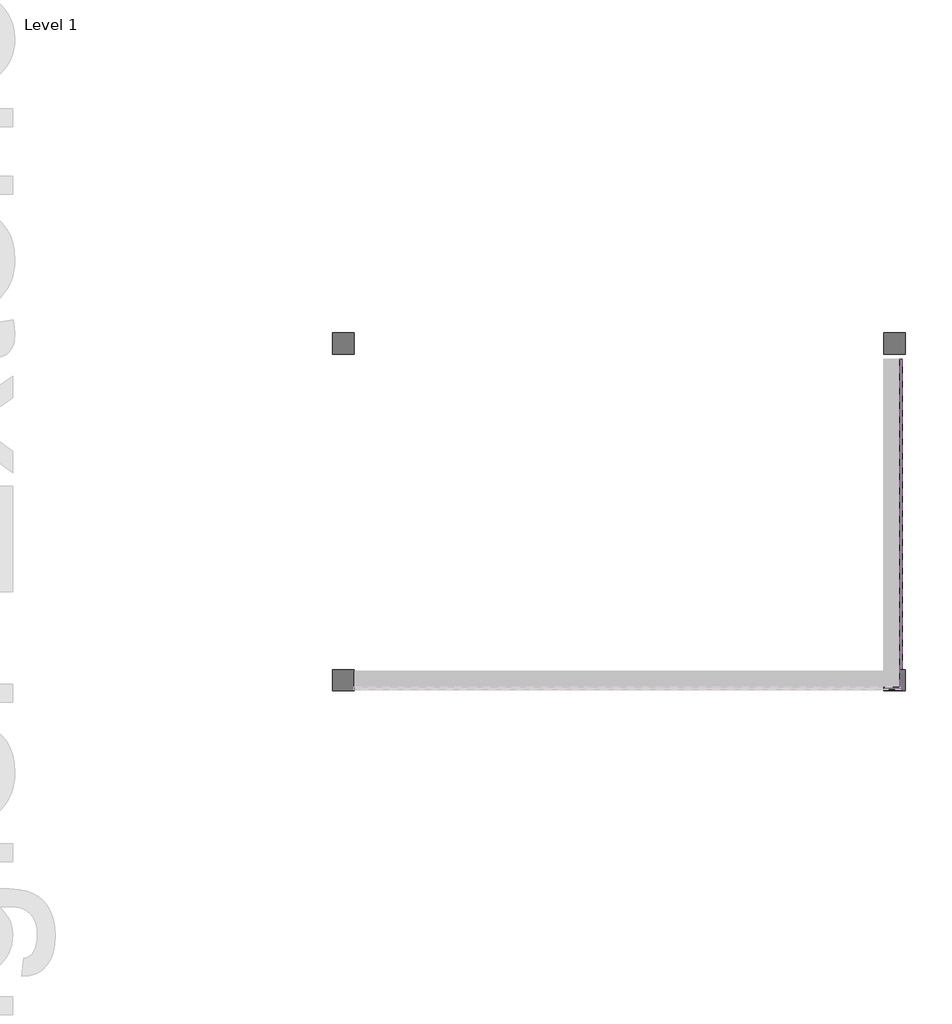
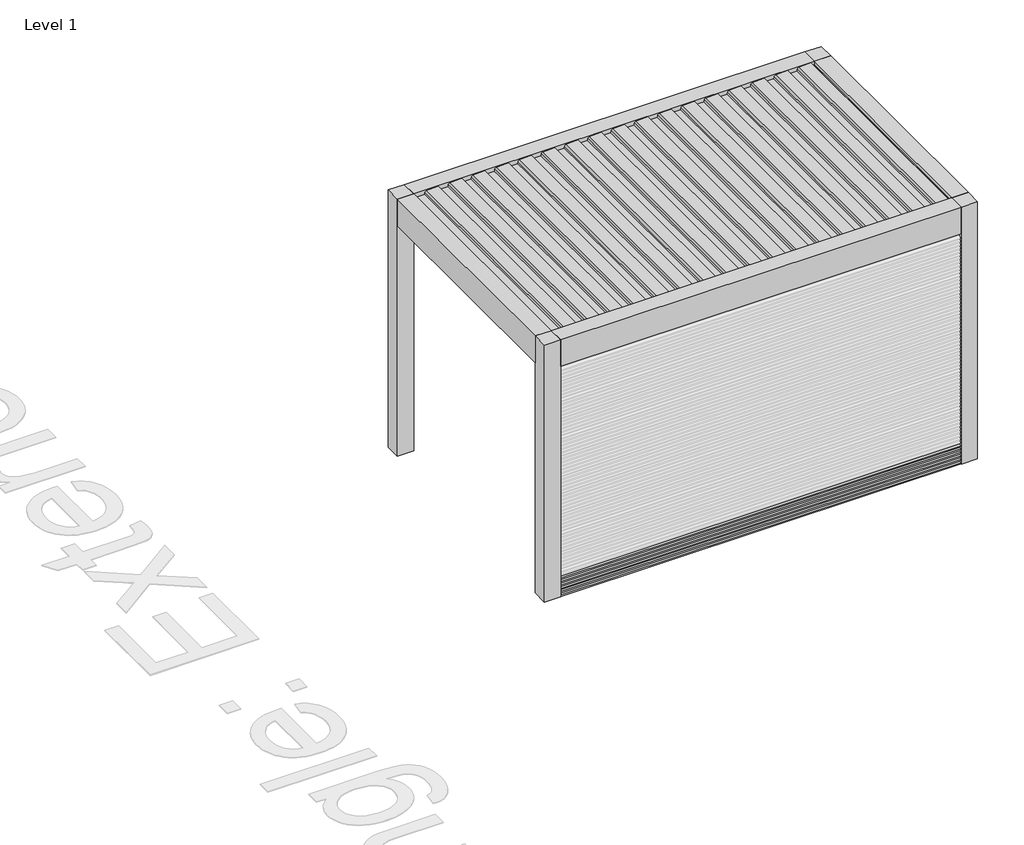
# One storey, part 59 of 69: 43 proxies.
"""IFC4 building model written with IfcOpenShell, lengths in millimetres."""

from ifc_helpers import new_model, si_unit, origin, place, context, project, spatial, faceted_brep, transform, mapped, element, save
from components import generic_models_9b0df196

model = new_model("IFC4")

# Units and contexts
model_context = context("Model", 3, world=origin())
ifc_project = project(units=[si_unit("LENGTHUNIT", "METRE", prefix="MILLI")], contexts=[model_context])

# Site, building, storey
site = spatial("IfcSite", under=ifc_project)
building = spatial("IfcBuilding", under=site)
storey = spatial("IfcBuildingStorey", under=building, Name="Level 1", Elevation=0.0)

# Proxies
placement = place(None, origin())
element("IfcBuildingElementProxy", 1, Name="Wall Sweeps", at=placement, inside=storey, context=model_context, shape_type="Brep", body=[
    faceted_brep([(210955.4900207, 39530.7593685, 175.8), (210955.4900207, 39530.7593685, 162.3), (210954.2400207, 39532.0093685, 163.0216933), (210954.2400207, 39532.0093685, 175.0782281), (210935.0900207, 39551.1593685, 186.1345698), (210935.0900207, 39551.1593685, 199.8), (210936.3400207, 39549.9093685, 199.8), (210936.3400207, 39549.9093685, 186.8562577), (207125.5749426, 39530.7593685, 175.8), (207125.5749426, 39549.9093685, 186.8562577), (207125.5749426, 39549.9093685, 199.8), (207125.5749426, 39551.1593685, 199.8), (207125.5749426, 39551.1593685, 186.1345698), (207125.5749426, 39532.0093685, 175.0782281), (207125.5749426, 39532.0093685, 163.0216933), (207125.5749426, 39530.7593685, 162.3)], [[[0, 1, 2, 3, 4, 5, 6, 7]], [[8, 9, 10, 11, 12, 13, 14, 15]], [[0, 7, 9, 8]], [[7, 6, 10, 9]], [[6, 5, 11, 10]], [[5, 4, 12, 11]], [[4, 3, 13, 12]], [[3, 2, 14, 13]], [[2, 1, 15, 14]], [[1, 0, 8, 15]]]),
])
element("IfcBuildingElementProxy", 2, Name="Wall Sweeps", at=placement, inside=storey, context=model_context, shape_type="Brep", body=[
    faceted_brep([(210955.4900207, 39530.7593685, 142.5), (210955.4900207, 39530.7593685, 129.0), (210954.2400207, 39532.0093685, 129.7216933), (210954.2400207, 39532.0093685, 141.7782281), (210935.0900207, 39551.1593685, 152.8345698), (210935.0900207, 39551.1593685, 166.5), (210936.3400207, 39549.9093685, 166.5), (210936.3400207, 39549.9093685, 153.5562577), (207125.5749426, 39530.7593685, 142.5), (207125.5749426, 39549.9093685, 153.5562577), (207125.5749426, 39549.9093685, 166.5), (207125.5749426, 39551.1593685, 166.5), (207125.5749426, 39551.1593685, 152.8345698), (207125.5749426, 39532.0093685, 141.7782281), (207125.5749426, 39532.0093685, 129.7216933), (207125.5749426, 39530.7593685, 129.0)], [[[0, 1, 2, 3, 4, 5, 6, 7]], [[8, 9, 10, 11, 12, 13, 14, 15]], [[0, 7, 9, 8]], [[7, 6, 10, 9]], [[6, 5, 11, 10]], [[5, 4, 12, 11]], [[4, 3, 13, 12]], [[3, 2, 14, 13]], [[2, 1, 15, 14]], [[1, 0, 8, 15]]]),
])
element("IfcBuildingElementProxy", 3, Name="Wall Sweeps", at=placement, inside=storey, context=model_context, shape_type="Brep", body=[
    faceted_brep([(210955.4900207, 39530.7593685, 109.2), (210955.4900207, 39530.7593685, 95.7), (210954.2400207, 39532.0093685, 96.4216933), (210954.2400207, 39532.0093685, 108.4782281), (210935.0900207, 39551.1593685, 119.5345698), (210935.0900207, 39551.1593685, 133.2), (210936.3400207, 39549.9093685, 133.2), (210936.3400207, 39549.9093685, 120.2562577), (207125.5749426, 39530.7593685, 109.2), (207125.5749426, 39549.9093685, 120.2562577), (207125.5749426, 39549.9093685, 133.2), (207125.5749426, 39551.1593685, 133.2), (207125.5749426, 39551.1593685, 119.5345698), (207125.5749426, 39532.0093685, 108.4782281), (207125.5749426, 39532.0093685, 96.4216933), (207125.5749426, 39530.7593685, 95.7)], [[[0, 1, 2, 3, 4, 5, 6, 7]], [[8, 9, 10, 11, 12, 13, 14, 15]], [[0, 7, 9, 8]], [[7, 6, 10, 9]], [[6, 5, 11, 10]], [[5, 4, 12, 11]], [[4, 3, 13, 12]], [[3, 2, 14, 13]], [[2, 1, 15, 14]], [[1, 0, 8, 15]]]),
])
element("IfcBuildingElementProxy", 4, Name="Wall Sweeps", at=placement, inside=storey, context=model_context, shape_type="Brep", body=[
    faceted_brep([(210955.4900207, 39530.7593685, 75.9), (210955.4900207, 39530.7593685, 62.4), (210954.2400207, 39532.0093685, 63.1216933), (210954.2400207, 39532.0093685, 75.1782281), (210935.0900207, 39551.1593685, 86.2345698), (210935.0900207, 39551.1593685, 99.9), (210936.3400207, 39549.9093685, 99.9), (210936.3400207, 39549.9093685, 86.9562577), (207125.5749426, 39530.7593685, 75.9), (207125.5749426, 39549.9093685, 86.9562577), (207125.5749426, 39549.9093685, 99.9), (207125.5749426, 39551.1593685, 99.9), (207125.5749426, 39551.1593685, 86.2345698), (207125.5749426, 39532.0093685, 75.1782281), (207125.5749426, 39532.0093685, 63.1216933), (207125.5749426, 39530.7593685, 62.4)], [[[0, 1, 2, 3, 4, 5, 6, 7]], [[8, 9, 10, 11, 12, 13, 14, 15]], [[0, 7, 9, 8]], [[7, 6, 10, 9]], [[6, 5, 11, 10]], [[5, 4, 12, 11]], [[4, 3, 13, 12]], [[3, 2, 14, 13]], [[2, 1, 15, 14]], [[1, 0, 8, 15]]]),
])
element("IfcBuildingElementProxy", 5, Name="Wall Sweeps", at=placement, inside=storey, context=model_context, shape_type="Brep", body=[
    faceted_brep([(210955.4900207, 39530.7593685, 42.6), (210955.4900207, 39530.7593685, 29.1), (210954.2400207, 39532.0093685, 29.8216933), (210954.2400207, 39532.0093685, 41.8782281), (210935.0900207, 39551.1593685, 52.9345698), (210935.0900207, 39551.1593685, 66.6), (210936.3400207, 39549.9093685, 66.6), (210936.3400207, 39549.9093685, 53.6562577), (207125.5749426, 39530.7593685, 42.6), (207125.5749426, 39549.9093685, 53.6562577), (207125.5749426, 39549.9093685, 66.6), (207125.5749426, 39551.1593685, 66.6), (207125.5749426, 39551.1593685, 52.9345698), (207125.5749426, 39532.0093685, 41.8782281), (207125.5749426, 39532.0093685, 29.8216933), (207125.5749426, 39530.7593685, 29.1)], [[[0, 1, 2, 3, 4, 5, 6, 7]], [[8, 9, 10, 11, 12, 13, 14, 15]], [[0, 7, 9, 8]], [[7, 6, 10, 9]], [[6, 5, 11, 10]], [[5, 4, 12, 11]], [[4, 3, 13, 12]], [[3, 2, 14, 13]], [[2, 1, 15, 14]], [[1, 0, 8, 15]]]),
])
element("IfcBuildingElementProxy", 6, Name="Wall Sweeps", at=placement, inside=storey, context=model_context, shape_type="Brep", body=[
    faceted_brep([(210955.4900207, 39530.7593685, 9.3), (210955.4900207, 39530.7593685, -4.2), (210954.2400207, 39532.0093685, -3.4783067), (210954.2400207, 39532.0093685, 8.5782281), (210935.0900207, 39551.1593685, 19.6345698), (210935.0900207, 39551.1593685, 33.3), (210936.3400207, 39549.9093685, 33.3), (210936.3400207, 39549.9093685, 20.3562577), (207125.5749426, 39530.7593685, 9.3), (207125.5749426, 39549.9093685, 20.3562577), (207125.5749426, 39549.9093685, 33.3), (207125.5749426, 39551.1593685, 33.3), (207125.5749426, 39551.1593685, 19.6345698), (207125.5749426, 39532.0093685, 8.5782281), (207125.5749426, 39532.0093685, -3.4783067), (207125.5749426, 39530.7593685, -4.2)], [[[0, 1, 2, 3, 4, 5, 6, 7]], [[8, 9, 10, 11, 12, 13, 14, 15]], [[0, 7, 9, 8]], [[7, 6, 10, 9]], [[6, 5, 11, 10]], [[5, 4, 12, 11]], [[4, 3, 13, 12]], [[3, 2, 14, 13]], [[2, 1, 15, 14]], [[1, 0, 8, 15]]]),
])
element("IfcBuildingElementProxy", 7, Name="Wall Sweeps", at=placement, inside=storey, context=model_context, shape_type="Brep", body=[
    faceted_brep([(210955.4900207, 41838.6636399, 2207.1), (210955.4900207, 41838.6636399, 2193.6), (210954.2400207, 41838.6636399, 2194.3216933), (210954.2400207, 41838.6636399, 2206.3782281), (210935.0900207, 41838.6636399, 2217.4345698), (210935.0900207, 41838.6636399, 2231.1), (210936.3400207, 41838.6636399, 2231.1), (210936.3400207, 41838.6636399, 2218.1562577), (210955.4900207, 39530.7593685, 2207.1), (210936.3400207, 39549.9093685, 2218.1562577), (210936.3400207, 39549.9093685, 2231.1), (210935.0900207, 39551.1593685, 2231.1), (210935.0900207, 39551.1593685, 2217.4345698), (210954.2400207, 39532.0093685, 2206.3782281), (210954.2400207, 39532.0093685, 2194.3216933), (210955.4900207, 39530.7593685, 2193.6)], [[[0, 1, 2, 3, 4, 5, 6, 7]], [[8, 9, 10, 11, 12, 13, 14, 15]], [[0, 7, 9, 8]], [[7, 6, 10, 9]], [[6, 5, 11, 10]], [[5, 4, 12, 11]], [[4, 3, 13, 12]], [[3, 2, 14, 13]], [[2, 1, 15, 14]], [[1, 0, 8, 15]]]),
])
element("IfcBuildingElementProxy", 8, Name="Wall Sweeps", at=placement, inside=storey, context=model_context, shape_type="Brep", body=[
    faceted_brep([(210955.4900207, 41838.6636399, 2173.8), (210955.4900207, 41838.6636399, 2160.3), (210954.2400207, 41838.6636399, 2161.0216933), (210954.2400207, 41838.6636399, 2173.0782281), (210935.0900207, 41838.6636399, 2184.1345698), (210935.0900207, 41838.6636399, 2197.8), (210936.3400207, 41838.6636399, 2197.8), (210936.3400207, 41838.6636399, 2184.8562577), (210955.4900207, 39530.7593685, 2173.8), (210936.3400207, 39549.9093685, 2184.8562577), (210936.3400207, 39549.9093685, 2197.8), (210935.0900207, 39551.1593685, 2197.8), (210935.0900207, 39551.1593685, 2184.1345698), (210954.2400207, 39532.0093685, 2173.0782281), (210954.2400207, 39532.0093685, 2161.0216933), (210955.4900207, 39530.7593685, 2160.3)], [[[0, 1, 2, 3, 4, 5, 6, 7]], [[8, 9, 10, 11, 12, 13, 14, 15]], [[0, 7, 9, 8]], [[7, 6, 10, 9]], [[6, 5, 11, 10]], [[5, 4, 12, 11]], [[4, 3, 13, 12]], [[3, 2, 14, 13]], [[2, 1, 15, 14]], [[1, 0, 8, 15]]]),
])
element("IfcBuildingElementProxy", 9, Name="Wall Sweeps", at=placement, inside=storey, context=model_context, shape_type="Brep", body=[
    faceted_brep([(210955.4900207, 41838.6636399, 2140.5), (210955.4900207, 41838.6636399, 2127.0), (210954.2400207, 41838.6636399, 2127.7216933), (210954.2400207, 41838.6636399, 2139.7782281), (210935.0900207, 41838.6636399, 2150.8345698), (210935.0900207, 41838.6636399, 2164.5), (210936.3400207, 41838.6636399, 2164.5), (210936.3400207, 41838.6636399, 2151.5562577), (210955.4900207, 39530.7593685, 2140.5), (210936.3400207, 39549.9093685, 2151.5562577), (210936.3400207, 39549.9093685, 2164.5), (210935.0900207, 39551.1593685, 2164.5), (210935.0900207, 39551.1593685, 2150.8345698), (210954.2400207, 39532.0093685, 2139.7782281), (210954.2400207, 39532.0093685, 2127.7216933), (210955.4900207, 39530.7593685, 2127.0)], [[[0, 1, 2, 3, 4, 5, 6, 7]], [[8, 9, 10, 11, 12, 13, 14, 15]], [[0, 7, 9, 8]], [[7, 6, 10, 9]], [[6, 5, 11, 10]], [[5, 4, 12, 11]], [[4, 3, 13, 12]], [[3, 2, 14, 13]], [[2, 1, 15, 14]], [[1, 0, 8, 15]]]),
])
element("IfcBuildingElementProxy", 10, Name="Wall Sweeps", at=placement, inside=storey, context=model_context, shape_type="Brep", body=[
    faceted_brep([(210955.4900207, 41838.6636399, 2107.2), (210955.4900207, 41838.6636399, 2093.7), (210954.2400207, 41838.6636399, 2094.4216933), (210954.2400207, 41838.6636399, 2106.4782281), (210935.0900207, 41838.6636399, 2117.5345698), (210935.0900207, 41838.6636399, 2131.2), (210936.3400207, 41838.6636399, 2131.2), (210936.3400207, 41838.6636399, 2118.2562577), (210955.4900207, 39530.7593685, 2107.2), (210936.3400207, 39549.9093685, 2118.2562577), (210936.3400207, 39549.9093685, 2131.2), (210935.0900207, 39551.1593685, 2131.2), (210935.0900207, 39551.1593685, 2117.5345698), (210954.2400207, 39532.0093685, 2106.4782281), (210954.2400207, 39532.0093685, 2094.4216933), (210955.4900207, 39530.7593685, 2093.7)], [[[0, 1, 2, 3, 4, 5, 6, 7]], [[8, 9, 10, 11, 12, 13, 14, 15]], [[0, 7, 9, 8]], [[7, 6, 10, 9]], [[6, 5, 11, 10]], [[5, 4, 12, 11]], [[4, 3, 13, 12]], [[3, 2, 14, 13]], [[2, 1, 15, 14]], [[1, 0, 8, 15]]]),
])
element("IfcBuildingElementProxy", 11, Name="Wall Sweeps", at=placement, inside=storey, context=model_context, shape_type="Brep", body=[
    faceted_brep([(210955.4900207, 41838.6636399, 2073.9), (210955.4900207, 41838.6636399, 2060.4), (210954.2400207, 41838.6636399, 2061.1216933), (210954.2400207, 41838.6636399, 2073.1782281), (210935.0900207, 41838.6636399, 2084.2345698), (210935.0900207, 41838.6636399, 2097.9), (210936.3400207, 41838.6636399, 2097.9), (210936.3400207, 41838.6636399, 2084.9562577), (210955.4900207, 39530.7593685, 2073.9), (210936.3400207, 39549.9093685, 2084.9562577), (210936.3400207, 39549.9093685, 2097.9), (210935.0900207, 39551.1593685, 2097.9), (210935.0900207, 39551.1593685, 2084.2345698), (210954.2400207, 39532.0093685, 2073.1782281), (210954.2400207, 39532.0093685, 2061.1216933), (210955.4900207, 39530.7593685, 2060.4)], [[[0, 1, 2, 3, 4, 5, 6, 7]], [[8, 9, 10, 11, 12, 13, 14, 15]], [[0, 7, 9, 8]], [[7, 6, 10, 9]], [[6, 5, 11, 10]], [[5, 4, 12, 11]], [[4, 3, 13, 12]], [[3, 2, 14, 13]], [[2, 1, 15, 14]], [[1, 0, 8, 15]]]),
])
element("IfcBuildingElementProxy", 12, Name="Wall Sweeps", at=placement, inside=storey, context=model_context, shape_type="Brep", body=[
    faceted_brep([(210955.4900207, 41838.6636399, 2040.6), (210955.4900207, 41838.6636399, 2027.1), (210954.2400207, 41838.6636399, 2027.8216933), (210954.2400207, 41838.6636399, 2039.8782281), (210935.0900207, 41838.6636399, 2050.9345698), (210935.0900207, 41838.6636399, 2064.6), (210936.3400207, 41838.6636399, 2064.6), (210936.3400207, 41838.6636399, 2051.6562577), (210955.4900207, 39530.7593685, 2040.6), (210936.3400207, 39549.9093685, 2051.6562577), (210936.3400207, 39549.9093685, 2064.6), (210935.0900207, 39551.1593685, 2064.6), (210935.0900207, 39551.1593685, 2050.9345698), (210954.2400207, 39532.0093685, 2039.8782281), (210954.2400207, 39532.0093685, 2027.8216933), (210955.4900207, 39530.7593685, 2027.1)], [[[0, 1, 2, 3, 4, 5, 6, 7]], [[8, 9, 10, 11, 12, 13, 14, 15]], [[0, 7, 9, 8]], [[7, 6, 10, 9]], [[6, 5, 11, 10]], [[5, 4, 12, 11]], [[4, 3, 13, 12]], [[3, 2, 14, 13]], [[2, 1, 15, 14]], [[1, 0, 8, 15]]]),
])
element("IfcBuildingElementProxy", 13, Name="Wall Sweeps", at=placement, inside=storey, context=model_context, shape_type="Brep", body=[
    faceted_brep([(210955.4900207, 41838.6636399, 2007.3), (210955.4900207, 41838.6636399, 1993.8), (210954.2400207, 41838.6636399, 1994.5216933), (210954.2400207, 41838.6636399, 2006.5782281), (210935.0900207, 41838.6636399, 2017.6345698), (210935.0900207, 41838.6636399, 2031.3), (210936.3400207, 41838.6636399, 2031.3), (210936.3400207, 41838.6636399, 2018.3562577), (210955.4900207, 39530.7593685, 2007.3), (210936.3400207, 39549.9093685, 2018.3562577), (210936.3400207, 39549.9093685, 2031.3), (210935.0900207, 39551.1593685, 2031.3), (210935.0900207, 39551.1593685, 2017.6345698), (210954.2400207, 39532.0093685, 2006.5782281), (210954.2400207, 39532.0093685, 1994.5216933), (210955.4900207, 39530.7593685, 1993.8)], [[[0, 1, 2, 3, 4, 5, 6, 7]], [[8, 9, 10, 11, 12, 13, 14, 15]], [[0, 7, 9, 8]], [[7, 6, 10, 9]], [[6, 5, 11, 10]], [[5, 4, 12, 11]], [[4, 3, 13, 12]], [[3, 2, 14, 13]], [[2, 1, 15, 14]], [[1, 0, 8, 15]]]),
])
element("IfcBuildingElementProxy", 14, Name="Wall Sweeps", at=placement, inside=storey, context=model_context, shape_type="Brep", body=[
    faceted_brep([(210955.4900207, 41838.6636399, 1974.0), (210955.4900207, 41838.6636399, 1960.5), (210954.2400207, 41838.6636399, 1961.2216933), (210954.2400207, 41838.6636399, 1973.2782281), (210935.0900207, 41838.6636399, 1984.3345698), (210935.0900207, 41838.6636399, 1998.0), (210936.3400207, 41838.6636399, 1998.0), (210936.3400207, 41838.6636399, 1985.0562577), (210955.4900207, 39530.7593685, 1974.0), (210936.3400207, 39549.9093685, 1985.0562577), (210936.3400207, 39549.9093685, 1998.0), (210935.0900207, 39551.1593685, 1998.0), (210935.0900207, 39551.1593685, 1984.3345698), (210954.2400207, 39532.0093685, 1973.2782281), (210954.2400207, 39532.0093685, 1961.2216933), (210955.4900207, 39530.7593685, 1960.5)], [[[0, 1, 2, 3, 4, 5, 6, 7]], [[8, 9, 10, 11, 12, 13, 14, 15]], [[0, 7, 9, 8]], [[7, 6, 10, 9]], [[6, 5, 11, 10]], [[5, 4, 12, 11]], [[4, 3, 13, 12]], [[3, 2, 14, 13]], [[2, 1, 15, 14]], [[1, 0, 8, 15]]]),
])
element("IfcBuildingElementProxy", 15, Name="Wall Sweeps", at=placement, inside=storey, context=model_context, shape_type="Brep", body=[
    faceted_brep([(210955.4900207, 41838.6636399, 1940.7), (210955.4900207, 41838.6636399, 1927.2), (210954.2400207, 41838.6636399, 1927.9216933), (210954.2400207, 41838.6636399, 1939.9782281), (210935.0900207, 41838.6636399, 1951.0345698), (210935.0900207, 41838.6636399, 1964.7), (210936.3400207, 41838.6636399, 1964.7), (210936.3400207, 41838.6636399, 1951.7562577), (210955.4900207, 39530.7593685, 1940.7), (210936.3400207, 39549.9093685, 1951.7562577), (210936.3400207, 39549.9093685, 1964.7), (210935.0900207, 39551.1593685, 1964.7), (210935.0900207, 39551.1593685, 1951.0345698), (210954.2400207, 39532.0093685, 1939.9782281), (210954.2400207, 39532.0093685, 1927.9216933), (210955.4900207, 39530.7593685, 1927.2)], [[[0, 1, 2, 3, 4, 5, 6, 7]], [[8, 9, 10, 11, 12, 13, 14, 15]], [[0, 7, 9, 8]], [[7, 6, 10, 9]], [[6, 5, 11, 10]], [[5, 4, 12, 11]], [[4, 3, 13, 12]], [[3, 2, 14, 13]], [[2, 1, 15, 14]], [[1, 0, 8, 15]]]),
])
element("IfcBuildingElementProxy", 16, Name="Wall Sweeps", at=placement, inside=storey, context=model_context, shape_type="Brep", body=[
    faceted_brep([(210955.4900207, 41838.6636399, 1907.4), (210955.4900207, 41838.6636399, 1893.9), (210954.2400207, 41838.6636399, 1894.6216933), (210954.2400207, 41838.6636399, 1906.6782281), (210935.0900207, 41838.6636399, 1917.7345698), (210935.0900207, 41838.6636399, 1931.4), (210936.3400207, 41838.6636399, 1931.4), (210936.3400207, 41838.6636399, 1918.4562577), (210955.4900207, 39530.7593685, 1907.4), (210936.3400207, 39549.9093685, 1918.4562577), (210936.3400207, 39549.9093685, 1931.4), (210935.0900207, 39551.1593685, 1931.4), (210935.0900207, 39551.1593685, 1917.7345698), (210954.2400207, 39532.0093685, 1906.6782281), (210954.2400207, 39532.0093685, 1894.6216933), (210955.4900207, 39530.7593685, 1893.9)], [[[0, 1, 2, 3, 4, 5, 6, 7]], [[8, 9, 10, 11, 12, 13, 14, 15]], [[0, 7, 9, 8]], [[7, 6, 10, 9]], [[6, 5, 11, 10]], [[5, 4, 12, 11]], [[4, 3, 13, 12]], [[3, 2, 14, 13]], [[2, 1, 15, 14]], [[1, 0, 8, 15]]]),
])
element("IfcBuildingElementProxy", 17, Name="Wall Sweeps", at=placement, inside=storey, context=model_context, shape_type="Brep", body=[
    faceted_brep([(210955.4900207, 41838.6636399, 1874.1), (210955.4900207, 41838.6636399, 1860.6), (210954.2400207, 41838.6636399, 1861.3216933), (210954.2400207, 41838.6636399, 1873.3782281), (210935.0900207, 41838.6636399, 1884.4345698), (210935.0900207, 41838.6636399, 1898.1), (210936.3400207, 41838.6636399, 1898.1), (210936.3400207, 41838.6636399, 1885.1562577), (210955.4900207, 39530.7593685, 1874.1), (210936.3400207, 39549.9093685, 1885.1562577), (210936.3400207, 39549.9093685, 1898.1), (210935.0900207, 39551.1593685, 1898.1), (210935.0900207, 39551.1593685, 1884.4345698), (210954.2400207, 39532.0093685, 1873.3782281), (210954.2400207, 39532.0093685, 1861.3216933), (210955.4900207, 39530.7593685, 1860.6)], [[[0, 1, 2, 3, 4, 5, 6, 7]], [[8, 9, 10, 11, 12, 13, 14, 15]], [[0, 7, 9, 8]], [[7, 6, 10, 9]], [[6, 5, 11, 10]], [[5, 4, 12, 11]], [[4, 3, 13, 12]], [[3, 2, 14, 13]], [[2, 1, 15, 14]], [[1, 0, 8, 15]]]),
])
element("IfcBuildingElementProxy", 18, Name="Wall Sweeps", at=placement, inside=storey, context=model_context, shape_type="Brep", body=[
    faceted_brep([(210955.4900207, 41838.6636399, 1840.8), (210955.4900207, 41838.6636399, 1827.3), (210954.2400207, 41838.6636399, 1828.0216933), (210954.2400207, 41838.6636399, 1840.0782281), (210935.0900207, 41838.6636399, 1851.1345698), (210935.0900207, 41838.6636399, 1864.8), (210936.3400207, 41838.6636399, 1864.8), (210936.3400207, 41838.6636399, 1851.8562577), (210955.4900207, 39530.7593685, 1840.8), (210936.3400207, 39549.9093685, 1851.8562577), (210936.3400207, 39549.9093685, 1864.8), (210935.0900207, 39551.1593685, 1864.8), (210935.0900207, 39551.1593685, 1851.1345698), (210954.2400207, 39532.0093685, 1840.0782281), (210954.2400207, 39532.0093685, 1828.0216933), (210955.4900207, 39530.7593685, 1827.3)], [[[0, 1, 2, 3, 4, 5, 6, 7]], [[8, 9, 10, 11, 12, 13, 14, 15]], [[0, 7, 9, 8]], [[7, 6, 10, 9]], [[6, 5, 11, 10]], [[5, 4, 12, 11]], [[4, 3, 13, 12]], [[3, 2, 14, 13]], [[2, 1, 15, 14]], [[1, 0, 8, 15]]]),
])
element("IfcBuildingElementProxy", 19, Name="Wall Sweeps", at=placement, inside=storey, context=model_context, shape_type="Brep", body=[
    faceted_brep([(210955.4900207, 41838.6636399, 1807.5), (210955.4900207, 41838.6636399, 1794.0), (210954.2400207, 41838.6636399, 1794.7216933), (210954.2400207, 41838.6636399, 1806.7782281), (210935.0900207, 41838.6636399, 1817.8345698), (210935.0900207, 41838.6636399, 1831.5), (210936.3400207, 41838.6636399, 1831.5), (210936.3400207, 41838.6636399, 1818.5562577), (210955.4900207, 39530.7593685, 1807.5), (210936.3400207, 39549.9093685, 1818.5562577), (210936.3400207, 39549.9093685, 1831.5), (210935.0900207, 39551.1593685, 1831.5), (210935.0900207, 39551.1593685, 1817.8345698), (210954.2400207, 39532.0093685, 1806.7782281), (210954.2400207, 39532.0093685, 1794.7216933), (210955.4900207, 39530.7593685, 1794.0)], [[[0, 1, 2, 3, 4, 5, 6, 7]], [[8, 9, 10, 11, 12, 13, 14, 15]], [[0, 7, 9, 8]], [[7, 6, 10, 9]], [[6, 5, 11, 10]], [[5, 4, 12, 11]], [[4, 3, 13, 12]], [[3, 2, 14, 13]], [[2, 1, 15, 14]], [[1, 0, 8, 15]]]),
])
element("IfcBuildingElementProxy", 20, Name="Wall Sweeps", at=placement, inside=storey, context=model_context, shape_type="Brep", body=[
    faceted_brep([(210955.4900207, 41838.6636399, 1774.2), (210955.4900207, 41838.6636399, 1760.7), (210954.2400207, 41838.6636399, 1761.4216933), (210954.2400207, 41838.6636399, 1773.4782281), (210935.0900207, 41838.6636399, 1784.5345698), (210935.0900207, 41838.6636399, 1798.2), (210936.3400207, 41838.6636399, 1798.2), (210936.3400207, 41838.6636399, 1785.2562577), (210955.4900207, 39530.7593685, 1774.2), (210936.3400207, 39549.9093685, 1785.2562577), (210936.3400207, 39549.9093685, 1798.2), (210935.0900207, 39551.1593685, 1798.2), (210935.0900207, 39551.1593685, 1784.5345698), (210954.2400207, 39532.0093685, 1773.4782281), (210954.2400207, 39532.0093685, 1761.4216933), (210955.4900207, 39530.7593685, 1760.7)], [[[0, 1, 2, 3, 4, 5, 6, 7]], [[8, 9, 10, 11, 12, 13, 14, 15]], [[0, 7, 9, 8]], [[7, 6, 10, 9]], [[6, 5, 11, 10]], [[5, 4, 12, 11]], [[4, 3, 13, 12]], [[3, 2, 14, 13]], [[2, 1, 15, 14]], [[1, 0, 8, 15]]]),
])
element("IfcBuildingElementProxy", 21, Name="Wall Sweeps", at=placement, inside=storey, context=model_context, shape_type="Brep", body=[
    faceted_brep([(210955.4900207, 41838.6636399, 1740.9), (210955.4900207, 41838.6636399, 1727.4), (210954.2400207, 41838.6636399, 1728.1216933), (210954.2400207, 41838.6636399, 1740.1782281), (210935.0900207, 41838.6636399, 1751.2345698), (210935.0900207, 41838.6636399, 1764.9), (210936.3400207, 41838.6636399, 1764.9), (210936.3400207, 41838.6636399, 1751.9562577), (210955.4900207, 39530.7593685, 1740.9), (210936.3400207, 39549.9093685, 1751.9562577), (210936.3400207, 39549.9093685, 1764.9), (210935.0900207, 39551.1593685, 1764.9), (210935.0900207, 39551.1593685, 1751.2345698), (210954.2400207, 39532.0093685, 1740.1782281), (210954.2400207, 39532.0093685, 1728.1216933), (210955.4900207, 39530.7593685, 1727.4)], [[[0, 1, 2, 3, 4, 5, 6, 7]], [[8, 9, 10, 11, 12, 13, 14, 15]], [[0, 7, 9, 8]], [[7, 6, 10, 9]], [[6, 5, 11, 10]], [[5, 4, 12, 11]], [[4, 3, 13, 12]], [[3, 2, 14, 13]], [[2, 1, 15, 14]], [[1, 0, 8, 15]]]),
])
element("IfcBuildingElementProxy", 22, Name="Wall Sweeps", at=placement, inside=storey, context=model_context, shape_type="Brep", body=[
    faceted_brep([(210955.4900207, 41838.6636399, 1707.6), (210955.4900207, 41838.6636399, 1694.1), (210954.2400207, 41838.6636399, 1694.8216933), (210954.2400207, 41838.6636399, 1706.8782281), (210935.0900207, 41838.6636399, 1717.9345698), (210935.0900207, 41838.6636399, 1731.6), (210936.3400207, 41838.6636399, 1731.6), (210936.3400207, 41838.6636399, 1718.6562577), (210955.4900207, 39530.7593685, 1707.6), (210936.3400207, 39549.9093685, 1718.6562577), (210936.3400207, 39549.9093685, 1731.6), (210935.0900207, 39551.1593685, 1731.6), (210935.0900207, 39551.1593685, 1717.9345698), (210954.2400207, 39532.0093685, 1706.8782281), (210954.2400207, 39532.0093685, 1694.8216933), (210955.4900207, 39530.7593685, 1694.1)], [[[0, 1, 2, 3, 4, 5, 6, 7]], [[8, 9, 10, 11, 12, 13, 14, 15]], [[0, 7, 9, 8]], [[7, 6, 10, 9]], [[6, 5, 11, 10]], [[5, 4, 12, 11]], [[4, 3, 13, 12]], [[3, 2, 14, 13]], [[2, 1, 15, 14]], [[1, 0, 8, 15]]]),
])
element("IfcBuildingElementProxy", 23, Name="Wall Sweeps", at=placement, inside=storey, context=model_context, shape_type="Brep", body=[
    faceted_brep([(210955.4900207, 41838.6636399, 1674.3), (210955.4900207, 41838.6636399, 1660.8), (210954.2400207, 41838.6636399, 1661.5216933), (210954.2400207, 41838.6636399, 1673.5782281), (210935.0900207, 41838.6636399, 1684.6345698), (210935.0900207, 41838.6636399, 1698.3), (210936.3400207, 41838.6636399, 1698.3), (210936.3400207, 41838.6636399, 1685.3562577), (210955.4900207, 39530.7593685, 1674.3), (210936.3400207, 39549.9093685, 1685.3562577), (210936.3400207, 39549.9093685, 1698.3), (210935.0900207, 39551.1593685, 1698.3), (210935.0900207, 39551.1593685, 1684.6345698), (210954.2400207, 39532.0093685, 1673.5782281), (210954.2400207, 39532.0093685, 1661.5216933), (210955.4900207, 39530.7593685, 1660.8)], [[[0, 1, 2, 3, 4, 5, 6, 7]], [[8, 9, 10, 11, 12, 13, 14, 15]], [[0, 7, 9, 8]], [[7, 6, 10, 9]], [[6, 5, 11, 10]], [[5, 4, 12, 11]], [[4, 3, 13, 12]], [[3, 2, 14, 13]], [[2, 1, 15, 14]], [[1, 0, 8, 15]]]),
])
element("IfcBuildingElementProxy", 24, Name="Wall Sweeps", at=placement, inside=storey, context=model_context, shape_type="Brep", body=[
    faceted_brep([(210955.4900207, 41838.6636399, 1641.0), (210955.4900207, 41838.6636399, 1627.5), (210954.2400207, 41838.6636399, 1628.2216933), (210954.2400207, 41838.6636399, 1640.2782281), (210935.0900207, 41838.6636399, 1651.3345698), (210935.0900207, 41838.6636399, 1665.0), (210936.3400207, 41838.6636399, 1665.0), (210936.3400207, 41838.6636399, 1652.0562577), (210955.4900207, 39530.7593685, 1641.0), (210936.3400207, 39549.9093685, 1652.0562577), (210936.3400207, 39549.9093685, 1665.0), (210935.0900207, 39551.1593685, 1665.0), (210935.0900207, 39551.1593685, 1651.3345698), (210954.2400207, 39532.0093685, 1640.2782281), (210954.2400207, 39532.0093685, 1628.2216933), (210955.4900207, 39530.7593685, 1627.5)], [[[0, 1, 2, 3, 4, 5, 6, 7]], [[8, 9, 10, 11, 12, 13, 14, 15]], [[0, 7, 9, 8]], [[7, 6, 10, 9]], [[6, 5, 11, 10]], [[5, 4, 12, 11]], [[4, 3, 13, 12]], [[3, 2, 14, 13]], [[2, 1, 15, 14]], [[1, 0, 8, 15]]]),
])
element("IfcBuildingElementProxy", 25, Name="Wall Sweeps", at=placement, inside=storey, context=model_context, shape_type="Brep", body=[
    faceted_brep([(210955.4900207, 41838.6636399, 1607.7), (210955.4900207, 41838.6636399, 1594.2), (210954.2400207, 41838.6636399, 1594.9216933), (210954.2400207, 41838.6636399, 1606.9782281), (210935.0900207, 41838.6636399, 1618.0345698), (210935.0900207, 41838.6636399, 1631.7), (210936.3400207, 41838.6636399, 1631.7), (210936.3400207, 41838.6636399, 1618.7562577), (210955.4900207, 39530.7593685, 1607.7), (210936.3400207, 39549.9093685, 1618.7562577), (210936.3400207, 39549.9093685, 1631.7), (210935.0900207, 39551.1593685, 1631.7), (210935.0900207, 39551.1593685, 1618.0345698), (210954.2400207, 39532.0093685, 1606.9782281), (210954.2400207, 39532.0093685, 1594.9216933), (210955.4900207, 39530.7593685, 1594.2)], [[[0, 1, 2, 3, 4, 5, 6, 7]], [[8, 9, 10, 11, 12, 13, 14, 15]], [[0, 7, 9, 8]], [[7, 6, 10, 9]], [[6, 5, 11, 10]], [[5, 4, 12, 11]], [[4, 3, 13, 12]], [[3, 2, 14, 13]], [[2, 1, 15, 14]], [[1, 0, 8, 15]]]),
])
element("IfcBuildingElementProxy", 26, Name="Wall Sweeps", at=placement, inside=storey, context=model_context, shape_type="Brep", body=[
    faceted_brep([(210955.4900207, 41838.6636399, 1574.4), (210955.4900207, 41838.6636399, 1560.9), (210954.2400207, 41838.6636399, 1561.6216933), (210954.2400207, 41838.6636399, 1573.6782281), (210935.0900207, 41838.6636399, 1584.7345698), (210935.0900207, 41838.6636399, 1598.4), (210936.3400207, 41838.6636399, 1598.4), (210936.3400207, 41838.6636399, 1585.4562577), (210955.4900207, 39530.7593685, 1574.4), (210936.3400207, 39549.9093685, 1585.4562577), (210936.3400207, 39549.9093685, 1598.4), (210935.0900207, 39551.1593685, 1598.4), (210935.0900207, 39551.1593685, 1584.7345698), (210954.2400207, 39532.0093685, 1573.6782281), (210954.2400207, 39532.0093685, 1561.6216933), (210955.4900207, 39530.7593685, 1560.9)], [[[0, 1, 2, 3, 4, 5, 6, 7]], [[8, 9, 10, 11, 12, 13, 14, 15]], [[0, 7, 9, 8]], [[7, 6, 10, 9]], [[6, 5, 11, 10]], [[5, 4, 12, 11]], [[4, 3, 13, 12]], [[3, 2, 14, 13]], [[2, 1, 15, 14]], [[1, 0, 8, 15]]]),
])
element("IfcBuildingElementProxy", 27, Name="Wall Sweeps", at=placement, inside=storey, context=model_context, shape_type="Brep", body=[
    faceted_brep([(210955.4900207, 41838.6636399, 1541.1), (210955.4900207, 41838.6636399, 1527.6), (210954.2400207, 41838.6636399, 1528.3216933), (210954.2400207, 41838.6636399, 1540.3782281), (210935.0900207, 41838.6636399, 1551.4345698), (210935.0900207, 41838.6636399, 1565.1), (210936.3400207, 41838.6636399, 1565.1), (210936.3400207, 41838.6636399, 1552.1562577), (210955.4900207, 39530.7593685, 1541.1), (210936.3400207, 39549.9093685, 1552.1562577), (210936.3400207, 39549.9093685, 1565.1), (210935.0900207, 39551.1593685, 1565.1), (210935.0900207, 39551.1593685, 1551.4345698), (210954.2400207, 39532.0093685, 1540.3782281), (210954.2400207, 39532.0093685, 1528.3216933), (210955.4900207, 39530.7593685, 1527.6)], [[[0, 1, 2, 3, 4, 5, 6, 7]], [[8, 9, 10, 11, 12, 13, 14, 15]], [[0, 7, 9, 8]], [[7, 6, 10, 9]], [[6, 5, 11, 10]], [[5, 4, 12, 11]], [[4, 3, 13, 12]], [[3, 2, 14, 13]], [[2, 1, 15, 14]], [[1, 0, 8, 15]]]),
])
element("IfcBuildingElementProxy", 28, Name="Wall Sweeps", at=placement, inside=storey, context=model_context, shape_type="Brep", body=[
    faceted_brep([(210955.4900207, 41838.6636399, 1507.8), (210955.4900207, 41838.6636399, 1494.3), (210954.2400207, 41838.6636399, 1495.0216933), (210954.2400207, 41838.6636399, 1507.0782281), (210935.0900207, 41838.6636399, 1518.1345698), (210935.0900207, 41838.6636399, 1531.8), (210936.3400207, 41838.6636399, 1531.8), (210936.3400207, 41838.6636399, 1518.8562577), (210955.4900207, 39530.7593685, 1507.8), (210936.3400207, 39549.9093685, 1518.8562577), (210936.3400207, 39549.9093685, 1531.8), (210935.0900207, 39551.1593685, 1531.8), (210935.0900207, 39551.1593685, 1518.1345698), (210954.2400207, 39532.0093685, 1507.0782281), (210954.2400207, 39532.0093685, 1495.0216933), (210955.4900207, 39530.7593685, 1494.3)], [[[0, 1, 2, 3, 4, 5, 6, 7]], [[8, 9, 10, 11, 12, 13, 14, 15]], [[0, 7, 9, 8]], [[7, 6, 10, 9]], [[6, 5, 11, 10]], [[5, 4, 12, 11]], [[4, 3, 13, 12]], [[3, 2, 14, 13]], [[2, 1, 15, 14]], [[1, 0, 8, 15]]]),
])
element("IfcBuildingElementProxy", 29, Name="Wall Sweeps", at=placement, inside=storey, context=model_context, shape_type="Brep", body=[
    faceted_brep([(210955.4900207, 41838.6636399, 1474.5), (210955.4900207, 41838.6636399, 1461.0), (210954.2400207, 41838.6636399, 1461.7216933), (210954.2400207, 41838.6636399, 1473.7782281), (210935.0900207, 41838.6636399, 1484.8345698), (210935.0900207, 41838.6636399, 1498.5), (210936.3400207, 41838.6636399, 1498.5), (210936.3400207, 41838.6636399, 1485.5562577), (210955.4900207, 39530.7593685, 1474.5), (210936.3400207, 39549.9093685, 1485.5562577), (210936.3400207, 39549.9093685, 1498.5), (210935.0900207, 39551.1593685, 1498.5), (210935.0900207, 39551.1593685, 1484.8345698), (210954.2400207, 39532.0093685, 1473.7782281), (210954.2400207, 39532.0093685, 1461.7216933), (210955.4900207, 39530.7593685, 1461.0)], [[[0, 1, 2, 3, 4, 5, 6, 7]], [[8, 9, 10, 11, 12, 13, 14, 15]], [[0, 7, 9, 8]], [[7, 6, 10, 9]], [[6, 5, 11, 10]], [[5, 4, 12, 11]], [[4, 3, 13, 12]], [[3, 2, 14, 13]], [[2, 1, 15, 14]], [[1, 0, 8, 15]]]),
])
element("IfcBuildingElementProxy", 30, Name="Wall Sweeps", at=placement, inside=storey, context=model_context, shape_type="Brep", body=[
    faceted_brep([(210955.4900207, 41838.6636399, 1441.2), (210955.4900207, 41838.6636399, 1427.7), (210954.2400207, 41838.6636399, 1428.4216933), (210954.2400207, 41838.6636399, 1440.4782281), (210935.0900207, 41838.6636399, 1451.5345698), (210935.0900207, 41838.6636399, 1465.2), (210936.3400207, 41838.6636399, 1465.2), (210936.3400207, 41838.6636399, 1452.2562577), (210955.4900207, 39530.7593685, 1441.2), (210936.3400207, 39549.9093685, 1452.2562577), (210936.3400207, 39549.9093685, 1465.2), (210935.0900207, 39551.1593685, 1465.2), (210935.0900207, 39551.1593685, 1451.5345698), (210954.2400207, 39532.0093685, 1440.4782281), (210954.2400207, 39532.0093685, 1428.4216933), (210955.4900207, 39530.7593685, 1427.7)], [[[0, 1, 2, 3, 4, 5, 6, 7]], [[8, 9, 10, 11, 12, 13, 14, 15]], [[0, 7, 9, 8]], [[7, 6, 10, 9]], [[6, 5, 11, 10]], [[5, 4, 12, 11]], [[4, 3, 13, 12]], [[3, 2, 14, 13]], [[2, 1, 15, 14]], [[1, 0, 8, 15]]]),
])
element("IfcBuildingElementProxy", 31, Name="Wall Sweeps", at=placement, inside=storey, context=model_context, shape_type="Brep", body=[
    faceted_brep([(210955.4900207, 41838.6636399, 1407.9), (210955.4900207, 41838.6636399, 1394.4), (210954.2400207, 41838.6636399, 1395.1216933), (210954.2400207, 41838.6636399, 1407.1782281), (210935.0900207, 41838.6636399, 1418.2345698), (210935.0900207, 41838.6636399, 1431.9), (210936.3400207, 41838.6636399, 1431.9), (210936.3400207, 41838.6636399, 1418.9562577), (210955.4900207, 39530.7593685, 1407.9), (210936.3400207, 39549.9093685, 1418.9562577), (210936.3400207, 39549.9093685, 1431.9), (210935.0900207, 39551.1593685, 1431.9), (210935.0900207, 39551.1593685, 1418.2345698), (210954.2400207, 39532.0093685, 1407.1782281), (210954.2400207, 39532.0093685, 1395.1216933), (210955.4900207, 39530.7593685, 1394.4)], [[[0, 1, 2, 3, 4, 5, 6, 7]], [[8, 9, 10, 11, 12, 13, 14, 15]], [[0, 7, 9, 8]], [[7, 6, 10, 9]], [[6, 5, 11, 10]], [[5, 4, 12, 11]], [[4, 3, 13, 12]], [[3, 2, 14, 13]], [[2, 1, 15, 14]], [[1, 0, 8, 15]]]),
])
element("IfcBuildingElementProxy", 32, Name="Wall Sweeps", at=placement, inside=storey, context=model_context, shape_type="Brep", body=[
    faceted_brep([(210955.4900207, 41838.6636399, 1374.6), (210955.4900207, 41838.6636399, 1361.1), (210954.2400207, 41838.6636399, 1361.8216933), (210954.2400207, 41838.6636399, 1373.8782281), (210935.0900207, 41838.6636399, 1384.9345698), (210935.0900207, 41838.6636399, 1398.6), (210936.3400207, 41838.6636399, 1398.6), (210936.3400207, 41838.6636399, 1385.6562577), (210955.4900207, 39530.7593685, 1374.6), (210936.3400207, 39549.9093685, 1385.6562577), (210936.3400207, 39549.9093685, 1398.6), (210935.0900207, 39551.1593685, 1398.6), (210935.0900207, 39551.1593685, 1384.9345698), (210954.2400207, 39532.0093685, 1373.8782281), (210954.2400207, 39532.0093685, 1361.8216933), (210955.4900207, 39530.7593685, 1361.1)], [[[0, 1, 2, 3, 4, 5, 6, 7]], [[8, 9, 10, 11, 12, 13, 14, 15]], [[0, 7, 9, 8]], [[7, 6, 10, 9]], [[6, 5, 11, 10]], [[5, 4, 12, 11]], [[4, 3, 13, 12]], [[3, 2, 14, 13]], [[2, 1, 15, 14]], [[1, 0, 8, 15]]]),
])
element("IfcBuildingElementProxy", 33, Name="Wall Sweeps", at=placement, inside=storey, context=model_context, shape_type="Brep", body=[
    faceted_brep([(210955.4900207, 41838.6636399, 1341.3), (210955.4900207, 41838.6636399, 1327.8), (210954.2400207, 41838.6636399, 1328.5216933), (210954.2400207, 41838.6636399, 1340.5782281), (210935.0900207, 41838.6636399, 1351.6345698), (210935.0900207, 41838.6636399, 1365.3), (210936.3400207, 41838.6636399, 1365.3), (210936.3400207, 41838.6636399, 1352.3562577), (210955.4900207, 39530.7593685, 1341.3), (210936.3400207, 39549.9093685, 1352.3562577), (210936.3400207, 39549.9093685, 1365.3), (210935.0900207, 39551.1593685, 1365.3), (210935.0900207, 39551.1593685, 1351.6345698), (210954.2400207, 39532.0093685, 1340.5782281), (210954.2400207, 39532.0093685, 1328.5216933), (210955.4900207, 39530.7593685, 1327.8)], [[[0, 1, 2, 3, 4, 5, 6, 7]], [[8, 9, 10, 11, 12, 13, 14, 15]], [[0, 7, 9, 8]], [[7, 6, 10, 9]], [[6, 5, 11, 10]], [[5, 4, 12, 11]], [[4, 3, 13, 12]], [[3, 2, 14, 13]], [[2, 1, 15, 14]], [[1, 0, 8, 15]]]),
])
element("IfcBuildingElementProxy", 34, Name="Wall Sweeps", at=placement, inside=storey, context=model_context, shape_type="Brep", body=[
    faceted_brep([(210955.4900207, 41838.6636399, 1308.0), (210955.4900207, 41838.6636399, 1294.5), (210954.2400207, 41838.6636399, 1295.2216933), (210954.2400207, 41838.6636399, 1307.2782281), (210935.0900207, 41838.6636399, 1318.3345698), (210935.0900207, 41838.6636399, 1332.0), (210936.3400207, 41838.6636399, 1332.0), (210936.3400207, 41838.6636399, 1319.0562577), (210955.4900207, 39530.7593685, 1308.0), (210936.3400207, 39549.9093685, 1319.0562577), (210936.3400207, 39549.9093685, 1332.0), (210935.0900207, 39551.1593685, 1332.0), (210935.0900207, 39551.1593685, 1318.3345698), (210954.2400207, 39532.0093685, 1307.2782281), (210954.2400207, 39532.0093685, 1295.2216933), (210955.4900207, 39530.7593685, 1294.5)], [[[0, 1, 2, 3, 4, 5, 6, 7]], [[8, 9, 10, 11, 12, 13, 14, 15]], [[0, 7, 9, 8]], [[7, 6, 10, 9]], [[6, 5, 11, 10]], [[5, 4, 12, 11]], [[4, 3, 13, 12]], [[3, 2, 14, 13]], [[2, 1, 15, 14]], [[1, 0, 8, 15]]]),
])
element("IfcBuildingElementProxy", 35, Name="Wall Sweeps", at=placement, inside=storey, context=model_context, shape_type="Brep", body=[
    faceted_brep([(210955.4900207, 41838.6636399, 1274.7), (210955.4900207, 41838.6636399, 1261.2), (210954.2400207, 41838.6636399, 1261.9216933), (210954.2400207, 41838.6636399, 1273.9782281), (210935.0900207, 41838.6636399, 1285.0345698), (210935.0900207, 41838.6636399, 1298.7), (210936.3400207, 41838.6636399, 1298.7), (210936.3400207, 41838.6636399, 1285.7562577), (210955.4900207, 39530.7593685, 1274.7), (210936.3400207, 39549.9093685, 1285.7562577), (210936.3400207, 39549.9093685, 1298.7), (210935.0900207, 39551.1593685, 1298.7), (210935.0900207, 39551.1593685, 1285.0345698), (210954.2400207, 39532.0093685, 1273.9782281), (210954.2400207, 39532.0093685, 1261.9216933), (210955.4900207, 39530.7593685, 1261.2)], [[[0, 1, 2, 3, 4, 5, 6, 7]], [[8, 9, 10, 11, 12, 13, 14, 15]], [[0, 7, 9, 8]], [[7, 6, 10, 9]], [[6, 5, 11, 10]], [[5, 4, 12, 11]], [[4, 3, 13, 12]], [[3, 2, 14, 13]], [[2, 1, 15, 14]], [[1, 0, 8, 15]]]),
])
element("IfcBuildingElementProxy", 36, Name="Wall Sweeps", at=placement, inside=storey, context=model_context, shape_type="Brep", body=[
    faceted_brep([(210955.4900207, 41838.6636399, 1241.4), (210955.4900207, 41838.6636399, 1227.9), (210954.2400207, 41838.6636399, 1228.6216933), (210954.2400207, 41838.6636399, 1240.6782281), (210935.0900207, 41838.6636399, 1251.7345698), (210935.0900207, 41838.6636399, 1265.4), (210936.3400207, 41838.6636399, 1265.4), (210936.3400207, 41838.6636399, 1252.4562577), (210955.4900207, 39530.7593685, 1241.4), (210936.3400207, 39549.9093685, 1252.4562577), (210936.3400207, 39549.9093685, 1265.4), (210935.0900207, 39551.1593685, 1265.4), (210935.0900207, 39551.1593685, 1251.7345698), (210954.2400207, 39532.0093685, 1240.6782281), (210954.2400207, 39532.0093685, 1228.6216933), (210955.4900207, 39530.7593685, 1227.9)], [[[0, 1, 2, 3, 4, 5, 6, 7]], [[8, 9, 10, 11, 12, 13, 14, 15]], [[0, 7, 9, 8]], [[7, 6, 10, 9]], [[6, 5, 11, 10]], [[5, 4, 12, 11]], [[4, 3, 13, 12]], [[3, 2, 14, 13]], [[2, 1, 15, 14]], [[1, 0, 8, 15]]]),
])
element("IfcBuildingElementProxy", 37, Name="Wall Sweeps", at=placement, inside=storey, context=model_context, shape_type="Brep", body=[
    faceted_brep([(210955.4900207, 41838.6636399, 1208.1), (210955.4900207, 41838.6636399, 1194.6), (210954.2400207, 41838.6636399, 1195.3216933), (210954.2400207, 41838.6636399, 1207.3782281), (210935.0900207, 41838.6636399, 1218.4345698), (210935.0900207, 41838.6636399, 1232.1), (210936.3400207, 41838.6636399, 1232.1), (210936.3400207, 41838.6636399, 1219.1562577), (210955.4900207, 39530.7593685, 1208.1), (210936.3400207, 39549.9093685, 1219.1562577), (210936.3400207, 39549.9093685, 1232.1), (210935.0900207, 39551.1593685, 1232.1), (210935.0900207, 39551.1593685, 1218.4345698), (210954.2400207, 39532.0093685, 1207.3782281), (210954.2400207, 39532.0093685, 1195.3216933), (210955.4900207, 39530.7593685, 1194.6)], [[[0, 1, 2, 3, 4, 5, 6, 7]], [[8, 9, 10, 11, 12, 13, 14, 15]], [[0, 7, 9, 8]], [[7, 6, 10, 9]], [[6, 5, 11, 10]], [[5, 4, 12, 11]], [[4, 3, 13, 12]], [[3, 2, 14, 13]], [[2, 1, 15, 14]], [[1, 0, 8, 15]]]),
])
element("IfcBuildingElementProxy", 38, Name="Wall Sweeps", at=placement, inside=storey, context=model_context, shape_type="Brep", body=[
    faceted_brep([(210955.4900207, 41838.6636399, 1174.8), (210955.4900207, 41838.6636399, 1161.3), (210954.2400207, 41838.6636399, 1162.0216933), (210954.2400207, 41838.6636399, 1174.0782281), (210935.0900207, 41838.6636399, 1185.1345698), (210935.0900207, 41838.6636399, 1198.8), (210936.3400207, 41838.6636399, 1198.8), (210936.3400207, 41838.6636399, 1185.8562577), (210955.4900207, 39530.7593685, 1174.8), (210936.3400207, 39549.9093685, 1185.8562577), (210936.3400207, 39549.9093685, 1198.8), (210935.0900207, 39551.1593685, 1198.8), (210935.0900207, 39551.1593685, 1185.1345698), (210954.2400207, 39532.0093685, 1174.0782281), (210954.2400207, 39532.0093685, 1162.0216933), (210955.4900207, 39530.7593685, 1161.3)], [[[0, 1, 2, 3, 4, 5, 6, 7]], [[8, 9, 10, 11, 12, 13, 14, 15]], [[0, 7, 9, 8]], [[7, 6, 10, 9]], [[6, 5, 11, 10]], [[5, 4, 12, 11]], [[4, 3, 13, 12]], [[3, 2, 14, 13]], [[2, 1, 15, 14]], [[1, 0, 8, 15]]]),
])
element("IfcBuildingElementProxy", 39, Name="Wall Sweeps", at=placement, inside=storey, context=model_context, shape_type="Brep", body=[
    faceted_brep([(210955.4900207, 41838.6636399, 1141.5), (210955.4900207, 41838.6636399, 1128.0), (210954.2400207, 41838.6636399, 1128.7216933), (210954.2400207, 41838.6636399, 1140.7782281), (210935.0900207, 41838.6636399, 1151.8345698), (210935.0900207, 41838.6636399, 1165.5), (210936.3400207, 41838.6636399, 1165.5), (210936.3400207, 41838.6636399, 1152.5562577), (210955.4900207, 39530.7593685, 1141.5), (210936.3400207, 39549.9093685, 1152.5562577), (210936.3400207, 39549.9093685, 1165.5), (210935.0900207, 39551.1593685, 1165.5), (210935.0900207, 39551.1593685, 1151.8345698), (210954.2400207, 39532.0093685, 1140.7782281), (210954.2400207, 39532.0093685, 1128.7216933), (210955.4900207, 39530.7593685, 1128.0)], [[[0, 1, 2, 3, 4, 5, 6, 7]], [[8, 9, 10, 11, 12, 13, 14, 15]], [[0, 7, 9, 8]], [[7, 6, 10, 9]], [[6, 5, 11, 10]], [[5, 4, 12, 11]], [[4, 3, 13, 12]], [[3, 2, 14, 13]], [[2, 1, 15, 14]], [[1, 0, 8, 15]]]),
])
element("IfcBuildingElementProxy", 40, Name="Wall Sweeps", at=placement, inside=storey, context=model_context, shape_type="Brep", body=[
    faceted_brep([(210955.4900207, 41838.6636399, 1108.2), (210955.4900207, 41838.6636399, 1094.7), (210954.2400207, 41838.6636399, 1095.4216933), (210954.2400207, 41838.6636399, 1107.4782281), (210935.0900207, 41838.6636399, 1118.5345698), (210935.0900207, 41838.6636399, 1132.2), (210936.3400207, 41838.6636399, 1132.2), (210936.3400207, 41838.6636399, 1119.2562577), (210955.4900207, 39530.7593685, 1108.2), (210936.3400207, 39549.9093685, 1119.2562577), (210936.3400207, 39549.9093685, 1132.2), (210935.0900207, 39551.1593685, 1132.2), (210935.0900207, 39551.1593685, 1118.5345698), (210954.2400207, 39532.0093685, 1107.4782281), (210954.2400207, 39532.0093685, 1095.4216933), (210955.4900207, 39530.7593685, 1094.7)], [[[0, 1, 2, 3, 4, 5, 6, 7]], [[8, 9, 10, 11, 12, 13, 14, 15]], [[0, 7, 9, 8]], [[7, 6, 10, 9]], [[6, 5, 11, 10]], [[5, 4, 12, 11]], [[4, 3, 13, 12]], [[3, 2, 14, 13]], [[2, 1, 15, 14]], [[1, 0, 8, 15]]]),
])
element("IfcBuildingElementProxy", 41, Name="Wall Sweeps", at=placement, inside=storey, context=model_context, shape_type="Brep", body=[
    faceted_brep([(210955.4900207, 41838.6636399, 1074.9), (210955.4900207, 41838.6636399, 1061.4), (210954.2400207, 41838.6636399, 1062.1216933), (210954.2400207, 41838.6636399, 1074.1782281), (210935.0900207, 41838.6636399, 1085.2345698), (210935.0900207, 41838.6636399, 1098.9), (210936.3400207, 41838.6636399, 1098.9), (210936.3400207, 41838.6636399, 1085.9562577), (210955.4900207, 39530.7593685, 1074.9), (210936.3400207, 39549.9093685, 1085.9562577), (210936.3400207, 39549.9093685, 1098.9), (210935.0900207, 39551.1593685, 1098.9), (210935.0900207, 39551.1593685, 1085.2345698), (210954.2400207, 39532.0093685, 1074.1782281), (210954.2400207, 39532.0093685, 1062.1216933), (210955.4900207, 39530.7593685, 1061.4)], [[[0, 1, 2, 3, 4, 5, 6, 7]], [[8, 9, 10, 11, 12, 13, 14, 15]], [[0, 7, 9, 8]], [[7, 6, 10, 9]], [[6, 5, 11, 10]], [[5, 4, 12, 11]], [[4, 3, 13, 12]], [[3, 2, 14, 13]], [[2, 1, 15, 14]], [[1, 0, 8, 15]]]),
])
element("IfcBuildingElementProxy", 42, Name="Wall Sweeps", at=placement, inside=storey, context=model_context, shape_type="Brep", body=[
    faceted_brep([(210955.4900207, 41838.6636399, 1041.6), (210955.4900207, 41838.6636399, 1028.1), (210954.2400207, 41838.6636399, 1028.8216933), (210954.2400207, 41838.6636399, 1040.8782281), (210935.0900207, 41838.6636399, 1051.9345698), (210935.0900207, 41838.6636399, 1065.6), (210936.3400207, 41838.6636399, 1065.6), (210936.3400207, 41838.6636399, 1052.6562577), (210955.4900207, 39530.7593685, 1041.6), (210936.3400207, 39549.9093685, 1052.6562577), (210936.3400207, 39549.9093685, 1065.6), (210935.0900207, 39551.1593685, 1065.6), (210935.0900207, 39551.1593685, 1051.9345698), (210954.2400207, 39532.0093685, 1040.8782281), (210954.2400207, 39532.0093685, 1028.8216933), (210955.4900207, 39530.7593685, 1028.1)], [[[0, 1, 2, 3, 4, 5, 6, 7]], [[8, 9, 10, 11, 12, 13, 14, 15]], [[0, 7, 9, 8]], [[7, 6, 10, 9]], [[6, 5, 11, 10]], [[5, 4, 12, 11]], [[4, 3, 13, 12]], [[3, 2, 14, 13]], [[2, 1, 15, 14]], [[1, 0, 8, 15]]]),
])
generic_models_shape = generic_models_9b0df196(model_context)
element("IfcBuildingElementProxy", 43, Name="Renson_Camargue_Freestanding_Patio covers : Renson_Camargue_Freestanding_Patio covers", ObjectType="Renson_Camargue_Freestanding_Patio covers : Renson_Camargue_Freestanding_Patio covers", at=placement, inside=storey, context=model_context, shape_type="MappedRepresentation", body=[
    mapped(generic_models_shape, transform((208975.5749426, 40772.1593685, 0.0), x_axis=(1.0, 0.0, 0.0), y_axis=(0.0, 1.0, 0.0), z_axis=(0.0, 0.0, 1.0))),
])

save(model, "model.ifc")
